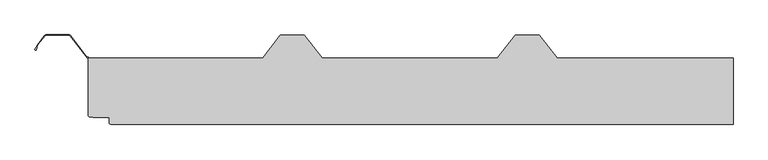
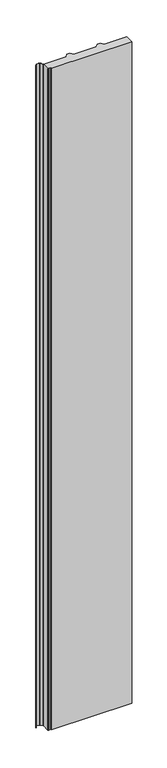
"""IFC4 building model written with IfcOpenShell, lengths in millimetres: plate geometry, Europanels_PolDeck TD T_Vt : PolDeck TD T 100/135."""

from ifc_helpers import new_model, si_unit, point, frame_2d, origin, origin_with_axes, place, context, project, spatial, polyline, circle_curve, trimmed, segment, composite_curve, outline, extrude, source, transform, mapped, element, save


def plate_dc32cb37(model_context):
    return source(origin(), model_context, "Body", "SweptSolid", [
        extrude(outline(composite_curve([segment(trimmed(circle_curve(frame_2d((-429.8815659, -47.5)), 2.5), [point((-429.8815659, -50.0))], [point((-432.3815659, -47.5))], False, "CARTESIAN"), True, "CONTINUOUS"), segment(polyline([(-432.3815659, -47.5), (-432.3815659, -41.2)]), True, "CONTINUOUS"), segment(trimmed(circle_curve(frame_2d((-434.0815659, -41.2)), 1.7), [point((-432.3815659, -41.2))], [point((-434.0815659, -39.5))], True, "CARTESIAN"), True, "CONTINUOUS"), segment(polyline([(-434.0815659, -39.5), (-456.3815896, -39.5000014), (-462.1916542, -38.7737392)]), True, "CONTINUOUS"), segment(trimmed(circle_curve(frame_2d((-461.8391453, -36.2555968)), 2.5426961), [point((-462.1916542, -38.7737392))], [point((-464.3815693, -36.2927937))], False, "CARTESIAN"), True, "CONTINUOUS"), segment(polyline([(-464.3815693, -36.2927937), (-464.3815085, 50.0), (-200.6257255, 50.0), (-173.6591746, 85.0), (-137.4296133, 85.0), (-110.4630624, 50.0), (154.3742745, 50.0), (181.3408254, 85.0), (217.5703867, 85.0), (244.5369376, 50.0), (510.544394, 50.0), (510.544394, -50.0), (-429.8815659, -50.0)]), True, "CONTINUOUS")], self_intersect=False)), origin_with_axes(), (0.0, 0.0, 1.0), 8180.0),
        extrude(outline(composite_curve([segment(polyline([(-466.1745498, 51.8180935), (-464.3815072, 51.8180935), (-464.3815087, 49.783271), (-465.2583399, 49.783271), (-491.0388844, 83.7629129)]), True, "CONTINUOUS"), segment(trimmed(circle_curve(frame_2d((-493.5661305, 81.8)), 3.2), [point((-491.0388844, 83.7629129))], [point((-493.5661305, 85.0))], True, "CARTESIAN"), True, "CONTINUOUS"), segment(polyline([(-493.5661305, 85.0), (-527.5226281, 85.0)]), True, "CONTINUOUS"), segment(trimmed(circle_curve(frame_2d((-527.5226281, 81.7999402)), 3.2000598), [point((-527.5226281, 85.0))], [point((-530.0552649, 83.7559907))], True, "CARTESIAN"), True, "CONTINUOUS"), segment(polyline([(-530.0552649, 83.7559907), (-540.2495654, 70.5697064), (-542.3197415, 67.1140575), (-540.9095936, 66.4368734), (-542.4973963, 63.1304808)]), True, "CONTINUOUS"), segment(trimmed(circle_curve(frame_2d((-543.5791302, 63.6499533)), 1.2), [point((-542.4973963, 63.1304808))], [point((-544.6173415, 64.2517151))], False, "CARTESIAN"), True, "CONTINUOUS"), segment(polyline([(-544.6173415, 64.2517151), (-540.6632601, 70.8520798), (-530.4509065, 84.0617156)]), True, "CONTINUOUS"), segment(trimmed(circle_curve(frame_2d((-527.5226281, 81.7999402)), 3.7000598), [point((-530.4509065, 84.0617156))], [point((-527.5226281, 85.5))], False, "CARTESIAN"), True, "CONTINUOUS"), segment(polyline([(-527.5226281, 85.5), (-493.5661305, 85.5)]), True, "CONTINUOUS"), segment(trimmed(circle_curve(frame_2d((-493.5661305, 81.8)), 3.7), [point((-493.5661305, 85.5))], [point((-490.6422038, 84.0673008))], False, "CARTESIAN"), True, "CONTINUOUS"), segment(polyline([(-490.6422038, 84.0673008), (-466.1745498, 51.8180935)]), True, "CONTINUOUS")], self_intersect=False)), origin_with_axes(), (0.0, 0.0, 1.0), 8180.0),
    ])


if __name__ == "__main__":
    model = new_model("IFC4")
    model_context = context("Model", 3, world=origin())
    ifc_project = project(units=[si_unit("LENGTHUNIT", "METRE", prefix="MILLI")], contexts=[model_context])
    site = spatial("IfcSite", under=ifc_project)
    building = spatial("IfcBuilding", under=site)
    placement = place(None, origin())
    plate_shape = plate_dc32cb37(model_context)
    element("IfcPlate", 1, ObjectType="Europanels_PolDeck TD T_Vt : PolDeck TD T 100/135", at=placement, inside=building, context=model_context, shape_type="MappedRepresentation", body=[
        mapped(plate_shape, transform((0.0, 0.0, 0.0), x_axis=(1.0, 0.0, 0.0), y_axis=(0.0, 1.0, 0.0), z_axis=(0.0, 0.0, 1.0))),
    ])
    save(model, "model.ifc")
